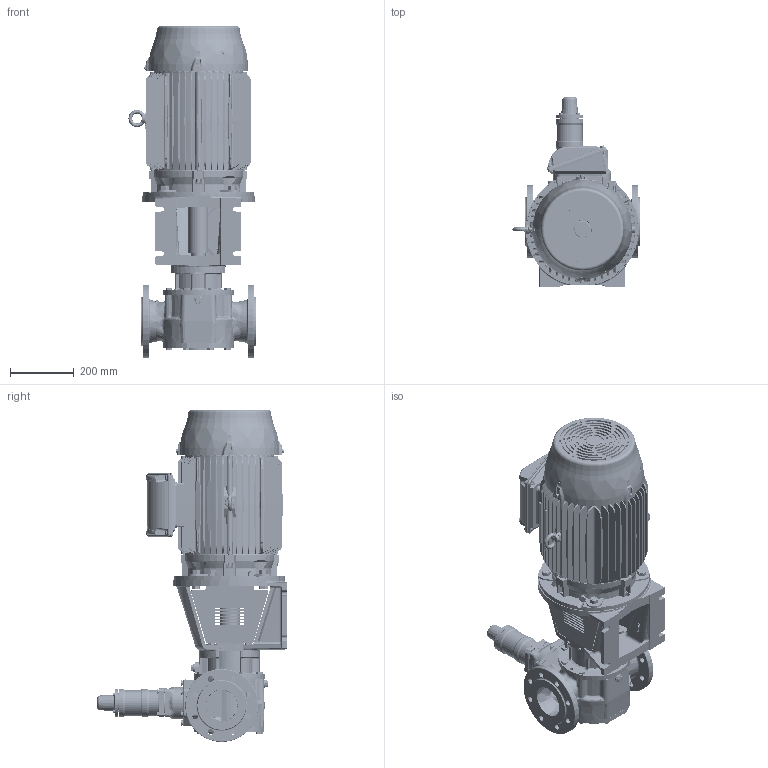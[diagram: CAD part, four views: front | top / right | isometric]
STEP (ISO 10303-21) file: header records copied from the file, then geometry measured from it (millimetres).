
FILE_DESCRIPTION(/* description */ (''),/* implementation_level */ '2;1');
FILE_NAME(/* name */ 'C:\V\JPP\Designs\GEAR PUMPS\PRODUCT ENGINEERING\EUROPE\TG BLOC\TG BLOC_86-100_G2_O_RV1-_160L-STEP.stp',/* time_stamp */ '2021-03-19T14:18:51+01:00',/* author */ ('A77THR'),/* organization */ (''),/* preprocessor_version */ 'ST-DEVELOPER v18.1',/* originating_system */ 'Autodesk Inventor 2020',/* authorisation */ '');
FILE_SCHEMA (('AUTOMOTIVE_DESIGN { 1 0 10303 214 3 1 1 }'));
Length unit declared in the file: millimetre
Products named in the file (1): TG BLOC_86-100_G2_O_RV1-_160L
Bounding box: 399.99 x 597 x 1044.4 mm (x, y, z)
Volume: 56002255.4 mm3; surface area: 2782290.1 mm2
Topology: 1 solids, 1 shells, 5030 faces, 13171 edges, 8322 vertices
Faces by surface type: plane 2014, cylinder 1101, bspline 1076, cone 640, torus 149, sphere 50
Full cylindrical faces by diameter (mm): 4 x1, 4.5 x8, 4.917 x8, 5 x4, 5.459 x4, 6 x4, 6.3 x1, 6.647 x1, 7 x8, 7.323 x4, 7.5 x3, 8 x17, 8.7 x4, 9 x6, 9.188 x8, 9.4 x1, 10 x16, 10.106 x7, 10.2 x2, 11 x8, 11.053 x4, 11.4 x4, 11.445 x2, 11.6 x7, 12 x4, 12.5 x3, 13 x5, 13.157 x2, 13.2 x2, 14 x8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
Entity records: 209818 total; most frequent: CARTESIAN_POINT 89342, ORIENTED_EDGE 26118, DIRECTION 21941, EDGE_CURVE 13059, AXIS2_PLACEMENT_3D 8480, VERTEX_POINT 8322, EDGE_LOOP 5483, FACE_OUTER_BOUND 5030
